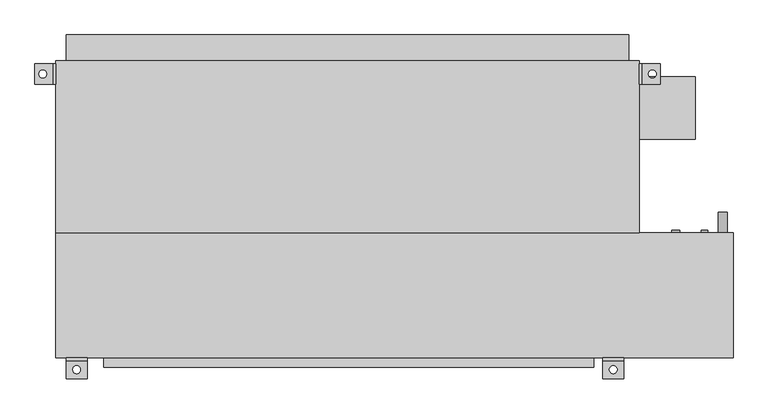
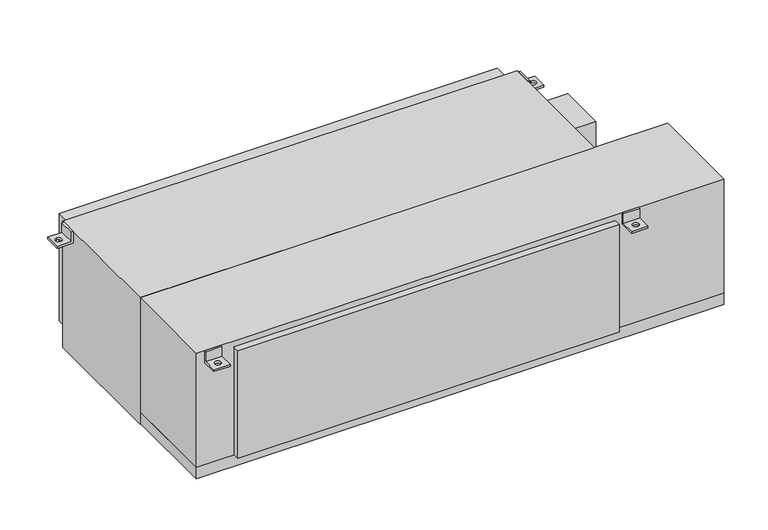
"""IFC4 building model written with IfcOpenShell, lengths in millimetres: proxy geometry, Concealed_High_Capacity_Horizontal_Fan_Coil_Unit_With_Plenum_-_42DCA_-_CARRIER_-_4-Pipe_ValveEnclosure_RH_2022 : Size 20 - 277v/60Hz/1Ph - 6/2 Coil."""

from ifc_helpers import new_model, si_unit, point, frame, frame_2d, origin, place, context, project, spatial, polyline, circle_curve, trimmed, segment, composite_curve, outline, extrude, source, transform, mapped, element, save
from ifc_brep_helpers import plane_surface, revolved_surface, advanced_brep


def mechanical_equipment_8ddfa61c(model_context):
    return source(origin(), model_context, "Body", "SolidModel", [
        advanced_brep(
        [(825.5, -390.525, 0.0), (825.5, -396.875, 0.0), (825.5, -396.875, -31.75), (825.5, -441.325, -31.75), (825.5, -441.325, -38.1), (825.5, -390.525, -38.1), (774.7, -390.525, 0.0), (774.7, -390.525, -38.1), (774.7, -441.325, -38.1), (774.7, -441.325, -31.75), (774.7, -396.875, -31.75), (774.7, -396.875, 0.0), (790.575, -419.1, -31.75), (809.625, -419.1, -31.75), (809.625, -419.1, -38.1), (790.575, -419.1, -38.1)],
        [
            (0, 1),
            (1, 2),
            (2, 3),
            (3, 4),
            (4, 5),
            (5, 0),
            (6, 7),
            (7, 8),
            (8, 9),
            (9, 10),
            (10, 11),
            (11, 6),
            (0, 6),
            (11, 1),
            (10, 2),
            (9, 3),
            (12, 13, circle_curve(frame((800.1, -419.1, -31.75), z_axis=(0.0, 0.0, -1.0), x_axis=(1.0, 0.0, 0.0)), 9.525)),
            (13, 12, circle_curve(frame((800.1, -419.1, -31.75), z_axis=(0.0, 0.0, -1.0), x_axis=(1.0, 0.0, 0.0)), 9.525)),
            (8, 4),
            (7, 5),
            (14, 15, circle_curve(frame((800.1, -419.1, -38.1), z_axis=(0.0, 0.0, 1.0), x_axis=(1.0, 0.0, 0.0)), 9.525)),
            (15, 14, circle_curve(frame((800.1, -419.1, -38.1), z_axis=(0.0, 0.0, 1.0), x_axis=(1.0, 0.0, 0.0)), 9.525)),
            (12, 15),
            (14, 13),
        ],
        [
            plane_surface(frame((825.5, -396.875, 0.0), z_axis=(1.0, 0.0, 0.0), x_axis=(0.0, -1.0, 0.0))),
            plane_surface(frame((774.7, -396.875, 0.0), z_axis=(-1.0, 0.0, 0.0), x_axis=(0.0, 1.0, 0.0))),
            plane_surface(frame((825.5, -390.525, 0.0), z_axis=(0.0, 0.0, 1.0), x_axis=(-1.0, 0.0, 0.0))),
            plane_surface(frame((825.5, -396.875, 0.0), z_axis=(0.0, -1.0, 0.0), x_axis=(-1.0, 0.0, 0.0))),
            plane_surface(frame((825.5, -396.875, -31.75), z_axis=(0.0, 0.0, 1.0), x_axis=(-1.0, 0.0, 0.0))),
            plane_surface(frame((825.5, -441.325, -31.75), z_axis=(0.0, -1.0, 0.0), x_axis=(-1.0, 0.0, 0.0))),
            plane_surface(frame((825.5, -441.325, -38.1), z_axis=(0.0, 0.0, -1.0), x_axis=(-1.0, 0.0, 0.0))),
            plane_surface(frame((825.5, -390.525, -38.1), z_axis=(0.0, 1.0, 0.0), x_axis=(-1.0, 0.0, 0.0))),
            revolved_surface(polyline([(809.625, -419.1, -38.1), (809.625, -419.1, -31.75)]), (800.1, -419.1, -31.75), (0.0, 0.0, -1.0)),
        ],
        [
            (0, [[1, 2, 3, 4, 5, 6]]),
            (1, [[7, 8, 9, 10, 11, 12]]),
            (2, [[-1, 13, -12, 14]]),
            (3, [[-2, -14, -11, 15]]),
            (4, [[-3, -15, -10, 16], [17, 18]]),
            (5, [[-4, -16, -9, 19]]),
            (6, [[-5, -19, -8, 20], [21, 22]]),
            (7, [[-6, -20, -7, -13]]),
            (8, [[23, -21, 24, -17]]),
            (8, [[-23, -18, -24, -22]]),
        ],
    ),
        advanced_brep(
        [(-482.6, -390.525, -38.1), (-482.6, -390.525, 0.0), (-482.6, -396.875, 0.0), (-482.6, -396.875, -31.75), (-482.6, -441.325, -31.75), (-482.6, -441.325, -38.1), (-533.4, -390.525, -38.1), (-533.4, -441.325, -38.1), (-533.4, -441.325, -31.75), (-533.4, -396.875, -31.75), (-533.4, -396.875, 0.0), (-533.4, -390.525, 0.0), (-517.525, -419.1, -31.75), (-498.475, -419.1, -31.75), (-498.475, -419.1, -38.1), (-517.525, -419.1, -38.1)],
        [
            (0, 1),
            (1, 2),
            (2, 3),
            (3, 4),
            (4, 5),
            (5, 0),
            (6, 7),
            (7, 8),
            (8, 9),
            (9, 10),
            (10, 11),
            (11, 6),
            (0, 6),
            (11, 1),
            (10, 2),
            (9, 3),
            (8, 4),
            (12, 13, circle_curve(frame((-508.0, -419.1, -31.75), z_axis=(0.0, 0.0, -1.0), x_axis=(1.0, 0.0, 0.0)), 9.525)),
            (13, 12, circle_curve(frame((-508.0, -419.1, -31.75), z_axis=(0.0, 0.0, -1.0), x_axis=(1.0, 0.0, 0.0)), 9.525)),
            (7, 5),
            (14, 15, circle_curve(frame((-508.0, -419.1, -38.1), z_axis=(0.0, 0.0, 1.0), x_axis=(1.0, 0.0, 0.0)), 9.525)),
            (15, 14, circle_curve(frame((-508.0, -419.1, -38.1), z_axis=(0.0, 0.0, 1.0), x_axis=(1.0, 0.0, 0.0)), 9.525)),
            (12, 15),
            (14, 13),
        ],
        [
            plane_surface(frame((-482.6, -390.525, -38.1), z_axis=(1.0, 0.0, 0.0), x_axis=(0.0, 0.0, 1.0))),
            plane_surface(frame((-533.4, -390.525, -38.1), z_axis=(-1.0, 0.0, 0.0), x_axis=(0.0, 0.0, -1.0))),
            plane_surface(frame((-482.6, -390.525, -38.1), z_axis=(0.0, 1.0, 0.0), x_axis=(-1.0, 0.0, 0.0))),
            plane_surface(frame((-482.6, -390.525, 0.0), z_axis=(0.0, 0.0, 1.0), x_axis=(-1.0, 0.0, 0.0))),
            plane_surface(frame((-482.6, -396.875, 0.0), z_axis=(0.0, -1.0, 0.0), x_axis=(-1.0, 0.0, 0.0))),
            plane_surface(frame((-482.6, -396.875, -31.75), z_axis=(0.0, 0.0, 1.0), x_axis=(-1.0, 0.0, 0.0))),
            plane_surface(frame((-482.6, -441.325, -31.75), z_axis=(0.0, -1.0, 0.0), x_axis=(-1.0, 0.0, 0.0))),
            plane_surface(frame((-482.6, -441.325, -38.1), z_axis=(0.0, 0.0, -1.0), x_axis=(-1.0, 0.0, 0.0))),
            revolved_surface(polyline([(-498.475, -419.1, -38.1), (-498.475, -419.1, -31.75)]), (-508.0, -419.1, -31.75), (0.0, 0.0, -1.0)),
        ],
        [
            (0, [[1, 2, 3, 4, 5, 6]]),
            (1, [[7, 8, 9, 10, 11, 12]]),
            (2, [[-1, 13, -12, 14]]),
            (3, [[-2, -14, -11, 15]]),
            (4, [[-3, -15, -10, 16]]),
            (5, [[-4, -16, -9, 17], [18, 19]]),
            (6, [[-5, -17, -8, 20]]),
            (7, [[-6, -20, -7, -13], [21, 22]]),
            (8, [[23, -21, 24, -18]]),
            (8, [[-23, -19, -24, -22]]),
        ],
    ),
        extrude(outline(composite_curve([segment(trimmed(circle_curve(frame_2d((-400.05, 1066.8)), 11.1125), [point((-400.05, 1055.6875))], [point((-400.05, 1077.9125))], False, "CARTESIAN"), True, "CONTINUOUS"), segment(trimmed(circle_curve(frame_2d((-400.05, 1066.8)), 11.1125), [point((-400.05, 1077.9125))], [point((-400.05, 1055.6875))], False, "CARTESIAN"), True, "CONTINUOUS")], self_intersect=False)), frame((0.0, -85.725, 0.0), z_axis=(0.0, 1.0, 0.0), x_axis=(0.0, 0.0, 1.0)), (0.0, 0.0, 1.0), 50.8),
        extrude(outline(composite_curve([segment(trimmed(circle_curve(frame_2d((-44.45, 952.5)), 9.525), [point((-44.45, 942.975))], [point((-44.45, 962.025))], False, "CARTESIAN"), True, "CONTINUOUS"), segment(trimmed(circle_curve(frame_2d((-44.45, 952.5)), 9.525), [point((-44.45, 962.025))], [point((-44.45, 942.975))], False, "CARTESIAN"), True, "CONTINUOUS")], self_intersect=False)), frame((0.0, -85.725, 0.0), z_axis=(0.0, 1.0, 0.0), x_axis=(0.0, 0.0, 1.0)), (0.0, 0.0, 1.0), 6.35),
        extrude(outline(composite_curve([segment(trimmed(circle_curve(frame_2d((-276.225, 952.5)), 9.525), [point((-276.225, 942.975))], [point((-276.225, 962.025))], False, "CARTESIAN"), True, "CONTINUOUS"), segment(trimmed(circle_curve(frame_2d((-276.225, 952.5)), 9.525), [point((-276.225, 962.025))], [point((-276.225, 942.975))], False, "CARTESIAN"), True, "CONTINUOUS")], self_intersect=False)), frame((0.0, -85.725, 0.0), z_axis=(0.0, 1.0, 0.0), x_axis=(0.0, 0.0, 1.0)), (0.0, 0.0, 1.0), 6.35),
        extrude(outline(composite_curve([segment(trimmed(circle_curve(frame_2d((-69.85, 1022.35)), 7.9375), [point((-69.85, 1014.4125))], [point((-69.85, 1030.2875))], False, "CARTESIAN"), True, "CONTINUOUS"), segment(trimmed(circle_curve(frame_2d((-69.85, 1022.35)), 7.9375), [point((-69.85, 1030.2875))], [point((-69.85, 1014.4125))], False, "CARTESIAN"), True, "CONTINUOUS")], self_intersect=False)), frame((0.0, -85.725, 0.0), z_axis=(0.0, 1.0, 0.0), x_axis=(0.0, 0.0, 1.0)), (0.0, 0.0, 1.0), 6.35),
        extrude(outline(composite_curve([segment(trimmed(circle_curve(frame_2d((-285.75, 1022.35)), 7.9375), [point((-285.75, 1014.4125))], [point((-285.75, 1030.2875))], False, "CARTESIAN"), True, "CONTINUOUS"), segment(trimmed(circle_curve(frame_2d((-285.75, 1022.35)), 7.9375), [point((-285.75, 1030.2875))], [point((-285.75, 1014.4125))], False, "CARTESIAN"), True, "CONTINUOUS")], self_intersect=False)), frame((0.0, -85.725, 0.0), z_axis=(0.0, 1.0, 0.0), x_axis=(0.0, 0.0, 1.0)), (0.0, 0.0, 1.0), 6.35),
        advanced_brep(
        [(-558.8, 327.025, -38.1), (-609.6, 327.025, -38.1), (-609.6, 327.025, -31.75), (-565.15, 327.025, -31.75), (-565.15, 327.025, 0.0), (-558.8, 327.025, 0.0), (-558.8, 276.225, -38.1), (-558.8, 276.225, 0.0), (-565.15, 276.225, 0.0), (-565.15, 276.225, -31.75), (-609.6, 276.225, -31.75), (-609.6, 276.225, -38.1), (-590.55, 292.1, -38.1), (-590.55, 311.15, -38.1), (-590.55, 311.15, -31.75), (-590.55, 292.1, -31.75)],
        [
            (0, 1),
            (1, 2),
            (2, 3),
            (3, 4),
            (4, 5),
            (5, 0),
            (6, 7),
            (7, 8),
            (8, 9),
            (9, 10),
            (10, 11),
            (11, 6),
            (0, 6),
            (11, 1),
            (12, 13, circle_curve(frame((-590.55, 301.625, -38.1), z_axis=(0.0, 0.0, 1.0), x_axis=(0.0, -1.0, 0.0)), 9.525)),
            (13, 12, circle_curve(frame((-590.55, 301.625, -38.1), z_axis=(0.0, 0.0, 1.0), x_axis=(0.0, -1.0, 0.0)), 9.525)),
            (10, 2),
            (9, 3),
            (14, 15, circle_curve(frame((-590.55, 301.625, -31.75), z_axis=(0.0, 0.0, -1.0), x_axis=(0.0, -1.0, 0.0)), 9.525)),
            (15, 14, circle_curve(frame((-590.55, 301.625, -31.75), z_axis=(0.0, 0.0, -1.0), x_axis=(0.0, -1.0, 0.0)), 9.525)),
            (8, 4),
            (7, 5),
            (14, 13),
            (12, 15),
        ],
        [
            plane_surface(frame((-558.8, 327.025, -38.1), z_axis=(0.0, 1.0, 0.0), x_axis=(-1.0, 0.0, 0.0))),
            plane_surface(frame((-558.8, 276.225, -38.1), z_axis=(0.0, -1.0, 0.0), x_axis=(1.0, 0.0, 0.0))),
            plane_surface(frame((-558.8, 327.025, -38.1), z_axis=(0.0, 0.0, -1.0), x_axis=(0.0, -1.0, 0.0))),
            plane_surface(frame((-609.6, 327.025, -38.1), z_axis=(-1.0, 0.0, 0.0), x_axis=(0.0, -1.0, 0.0))),
            plane_surface(frame((-609.6, 327.025, -31.75), z_axis=(0.0, 0.0, 1.0), x_axis=(0.0, -1.0, 0.0))),
            plane_surface(frame((-565.15, 327.025, -31.75), z_axis=(-1.0, 0.0, 0.0), x_axis=(0.0, -1.0, 0.0))),
            plane_surface(frame((-565.15, 327.025, 0.0), z_axis=(0.0, 0.0, 1.0), x_axis=(0.0, -1.0, 0.0))),
            plane_surface(frame((-558.8, 327.025, 0.0), z_axis=(1.0, 0.0, 0.0), x_axis=(0.0, -1.0, 0.0))),
            revolved_surface(polyline([(-590.55, 292.1, -38.1), (-590.55, 292.1, -31.75)]), (-590.55, 301.625, -31.75), (0.0, 0.0, -1.0)),
        ],
        [
            (0, [[1, 2, 3, 4, 5, 6]]),
            (1, [[7, 8, 9, 10, 11, 12]]),
            (2, [[-1, 13, -12, 14], [15, 16]]),
            (3, [[-2, -14, -11, 17]]),
            (4, [[-3, -17, -10, 18], [19, 20]]),
            (5, [[-4, -18, -9, 21]]),
            (6, [[-5, -21, -8, 22]]),
            (7, [[-6, -22, -7, -13]]),
            (8, [[23, -15, 24, -19]]),
            (8, [[-23, -20, -24, -16]]),
        ],
    ),
        advanced_brep(
        [(863.6, 327.025, -38.1), (863.6, 327.025, 0.0), (869.95, 327.025, 0.0), (869.95, 327.025, -31.75), (914.4, 327.025, -31.75), (914.4, 327.025, -38.1), (863.6, 276.225, -38.1), (914.4, 276.225, -38.1), (914.4, 276.225, -31.75), (869.95, 276.225, -31.75), (869.95, 276.225, 0.0), (863.6, 276.225, 0.0), (895.35, 311.15, -31.75), (895.35, 292.1, -31.75), (895.35, 292.1, -38.1), (895.35, 311.15, -38.1)],
        [
            (0, 1),
            (1, 2),
            (2, 3),
            (3, 4),
            (4, 5),
            (5, 0),
            (6, 7),
            (7, 8),
            (8, 9),
            (9, 10),
            (10, 11),
            (11, 6),
            (0, 6),
            (11, 1),
            (10, 2),
            (9, 3),
            (8, 4),
            (12, 13, circle_curve(frame((895.35, 301.625, -31.75), z_axis=(0.0, 0.0, -1.0), x_axis=(0.0, -1.0, 0.0)), 9.525)),
            (13, 12, circle_curve(frame((895.35, 301.625, -31.75), z_axis=(0.0, 0.0, -1.0), x_axis=(0.0, -1.0, 0.0)), 9.525)),
            (7, 5),
            (14, 15, circle_curve(frame((895.35, 301.625, -38.1), z_axis=(0.0, 0.0, 1.0), x_axis=(0.0, -1.0, 0.0)), 9.525)),
            (15, 14, circle_curve(frame((895.35, 301.625, -38.1), z_axis=(0.0, 0.0, 1.0), x_axis=(0.0, -1.0, 0.0)), 9.525)),
            (12, 15),
            (14, 13),
        ],
        [
            plane_surface(frame((-558.8, 327.025, -38.1), z_axis=(0.0, 1.0, 0.0), x_axis=(-1.0, 0.0, 0.0))),
            plane_surface(frame((-558.8, 276.225, -38.1), z_axis=(0.0, -1.0, 0.0), x_axis=(1.0, 0.0, 0.0))),
            plane_surface(frame((863.6, 327.025, -38.1), z_axis=(-1.0, 0.0, 0.0), x_axis=(0.0, -1.0, 0.0))),
            plane_surface(frame((863.6, 327.025, 0.0), z_axis=(0.0, 0.0, 1.0), x_axis=(0.0, -1.0, 0.0))),
            plane_surface(frame((869.95, 327.025, 0.0), z_axis=(1.0, 0.0, 0.0), x_axis=(0.0, -1.0, 0.0))),
            plane_surface(frame((869.95, 327.025, -31.75), z_axis=(0.0, 0.0, 1.0), x_axis=(0.0, -1.0, 0.0))),
            plane_surface(frame((914.4, 327.025, -31.75), z_axis=(1.0, 0.0, 0.0), x_axis=(0.0, -1.0, 0.0))),
            plane_surface(frame((914.4, 327.025, -38.1), z_axis=(0.0, 0.0, -1.0), x_axis=(0.0, -1.0, 0.0))),
            revolved_surface(polyline([(895.35, 292.1, -38.1), (895.35, 292.1, -31.75)]), (895.35, 301.625, -31.75), (0.0, 0.0, -1.0)),
        ],
        [
            (0, [[1, 2, 3, 4, 5, 6]]),
            (1, [[7, 8, 9, 10, 11, 12]]),
            (2, [[-1, 13, -12, 14]]),
            (3, [[-2, -14, -11, 15]]),
            (4, [[-3, -15, -10, 16]]),
            (5, [[-4, -16, -9, 17], [18, 19]]),
            (6, [[-5, -17, -8, 20]]),
            (7, [[-6, -20, -7, -13], [21, 22]]),
            (8, [[23, -21, 24, -18]]),
            (8, [[-23, -19, -24, -22]]),
        ],
    ),
        extrude(outline(polyline([(-533.4, 396.875), (838.2, 396.875), (838.2, 333.375), (-533.4, 333.375), (-533.4, 396.875)])), frame((0.0, 0.0, -377.825), z_axis=(0.0, 0.0, 1.0), x_axis=(1.0, 0.0, 0.0)), (0.0, 0.0, 1.0), 355.6),
        extrude(outline(polyline([(1000.125, 295.275), (1000.125, 142.875), (863.6, 142.875), (863.6, 295.275), (1000.125, 295.275)])), frame((0.0, 0.0, -254.0), z_axis=(0.0, 0.0, 1.0), x_axis=(1.0, 0.0, 0.0)), (0.0, 0.0, 1.0), 152.4),
        extrude(outline(polyline([(752.475, -412.75), (-441.325, -412.75), (-441.325, -390.525), (752.475, -390.525), (752.475, -412.75)])), frame((0.0, 0.0, -374.65), z_axis=(0.0, 0.0, 1.0), x_axis=(1.0, 0.0, 0.0)), (0.0, 0.0, 1.0), 355.6),
        extrude(outline(polyline([(863.6, -85.725), (-558.8, -85.725), (-558.8, 333.375), (863.6, 333.375), (863.6, -85.725)])), frame((0.0, 0.0, -419.1), z_axis=(0.0, 0.0, 1.0), x_axis=(1.0, 0.0, 0.0)), (0.0, 0.0, 1.0), 419.1),
        extrude(outline(polyline([(1092.2, -85.725), (1092.2, -390.525), (-558.8, -390.525), (-558.8, -85.725), (1092.2, -85.725)])), frame((0.0, 0.0, -377.825), z_axis=(0.0, 0.0, 1.0), x_axis=(1.0, 0.0, 0.0)), (0.0, 0.0, 1.0), 377.825),
        extrude(outline(polyline([(1092.2, -85.725), (1092.2, -390.525), (-558.8, -390.525), (-558.8, -85.725), (1092.2, -85.725)])), frame((0.0, 0.0, -415.925), z_axis=(0.0, 0.0, 1.0), x_axis=(1.0, 0.0, 0.0)), (0.0, 0.0, 1.0), 38.1),
    ])


if __name__ == "__main__":
    model = new_model("IFC4")
    model_context = context("Model", 3, world=origin())
    ifc_project = project(units=[si_unit("LENGTHUNIT", "METRE", prefix="MILLI")], contexts=[model_context])
    site = spatial("IfcSite", under=ifc_project)
    building = spatial("IfcBuilding", under=site)
    placement = place(None, origin())
    mechanical_equipment_shape = mechanical_equipment_8ddfa61c(model_context)
    element("IfcBuildingElementProxy", 1, Name="Concealed_High_Capacity_Horizontal_Fan_Coil_Unit_With_Plenum_-_42DCA_-_CARRIER_-_4-Pipe_ValveEnclosure_RH_2022 : Size 20 - 277v/60Hz/1Ph - 6/2 Coil", ObjectType="Concealed_High_Capacity_Horizontal_Fan_Coil_Unit_With_Plenum_-_42DCA_-_CARRIER_-_4-Pipe_ValveEnclosure_RH_2022 : Size 20 - 277v/60Hz/1Ph - 6/2 Coil", at=placement, inside=building, context=model_context, shape_type="MappedRepresentation", body=[
        mapped(mechanical_equipment_shape, transform((0.0, 0.0, 0.0), x_axis=(1.0, 0.0, 0.0), y_axis=(0.0, 1.0, 0.0), z_axis=(0.0, 0.0, 1.0))),
    ])
    save(model, "model.ifc")
